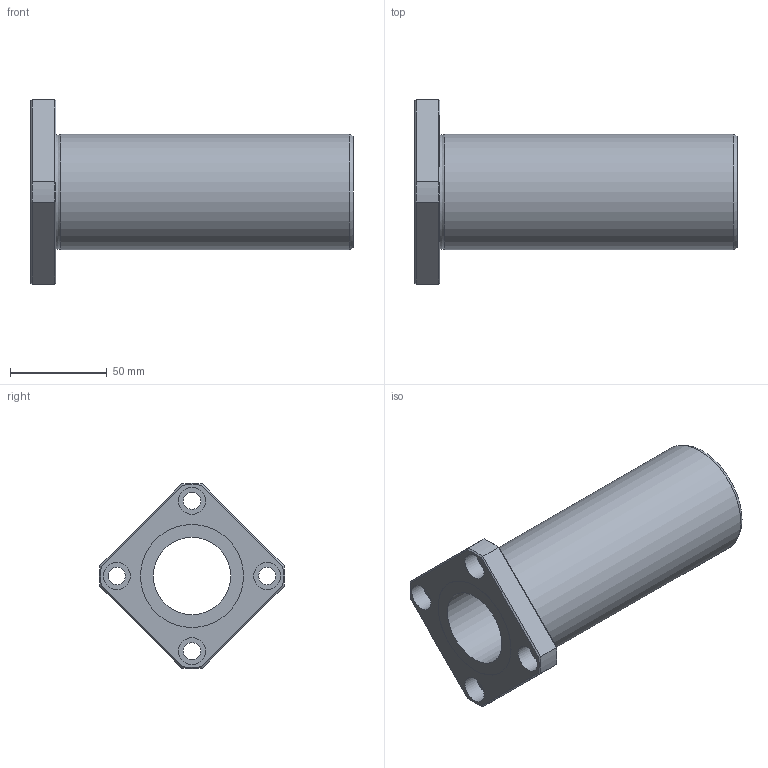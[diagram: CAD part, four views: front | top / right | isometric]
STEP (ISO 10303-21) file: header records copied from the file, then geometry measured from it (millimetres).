
FILE_DESCRIPTION((''),'2;1');
FILE_NAME('C:\Documents and Settings\土屋\My Documents\土屋移動用フォルダ\製品 (図面)\カタログ用3D\変換ファイル\OZAK_3D-CAD(STEP形式)\Part1.-Linear Bearings_ﾘﾆｱﾍﾞｱﾘﾝｸﾞ\09_Maintenance Free_ﾒｲﾝﾃﾅﾝｽﾌﾘｰ\L2017-09-21T14:12:08','2017-09-21T14:12:08',('y'),(''),'Autodesk Inventor 11','Autodesk Inventor 11','');
FILE_SCHEMA(('AUTOMOTIVE_DESIGN { 1 0 10303 214 1 1 1 1 }'));
Length unit declared in the file: millimetre
Products named in the file (1): LFDK-MF
Bounding box: 167 x 95.93 x 95.93 mm (x, y, z)
Volume: 290214.7 mm3; surface area: 63432.3 mm2
Topology: 1 solids, 1 shells, 47 faces, 96 edges, 58 vertices
Faces by surface type: plane 21, cylinder 16, cone 8, torus 1, bspline 1
Full cylindrical faces by diameter (mm): 9 x4, 14 x4, 40 x1, 53.4 x2, 60 x1
Entity records: 1275 total; most frequent: CARTESIAN_POINT 298, DIRECTION 202, ORIENTED_EDGE 164, AXIS2_PLACEMENT_3D 89, EDGE_CURVE 82, EDGE_LOOP 78, VERTEX_POINT 58, FACE_OUTER_BOUND 47
